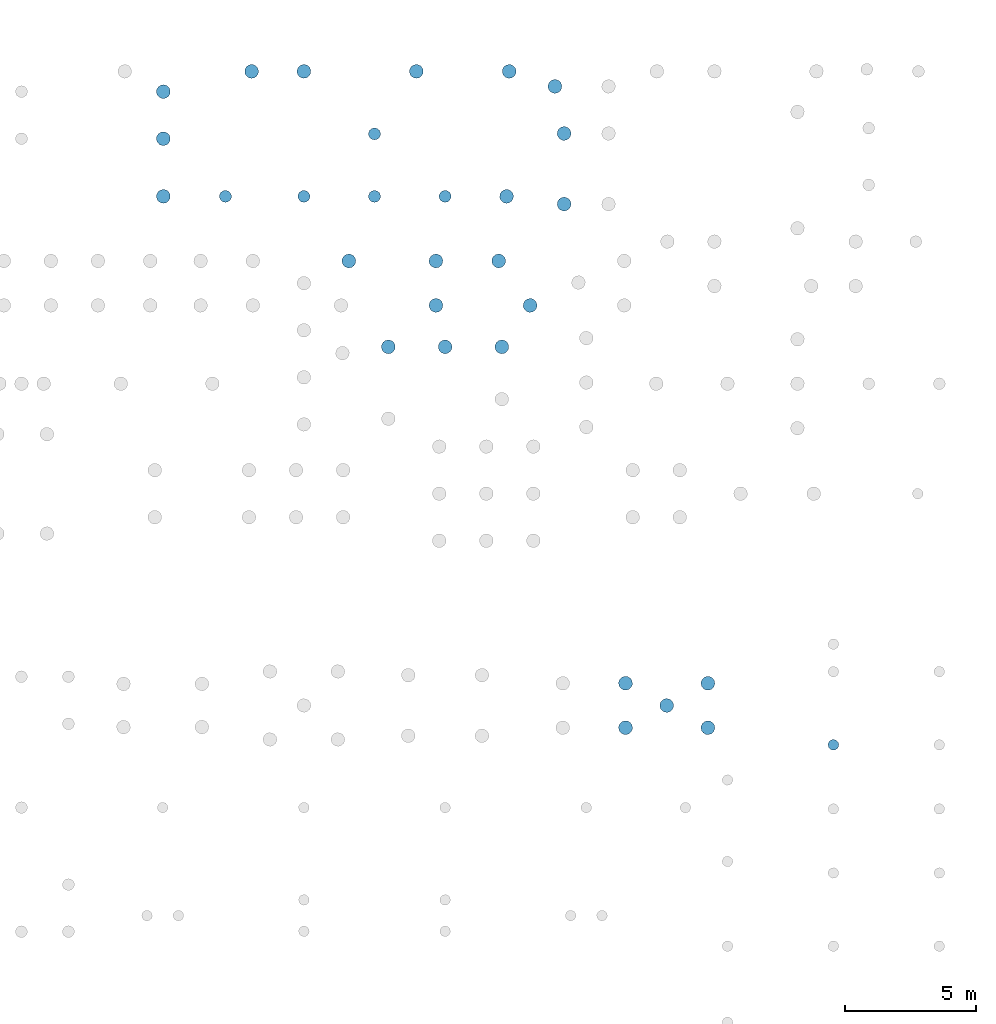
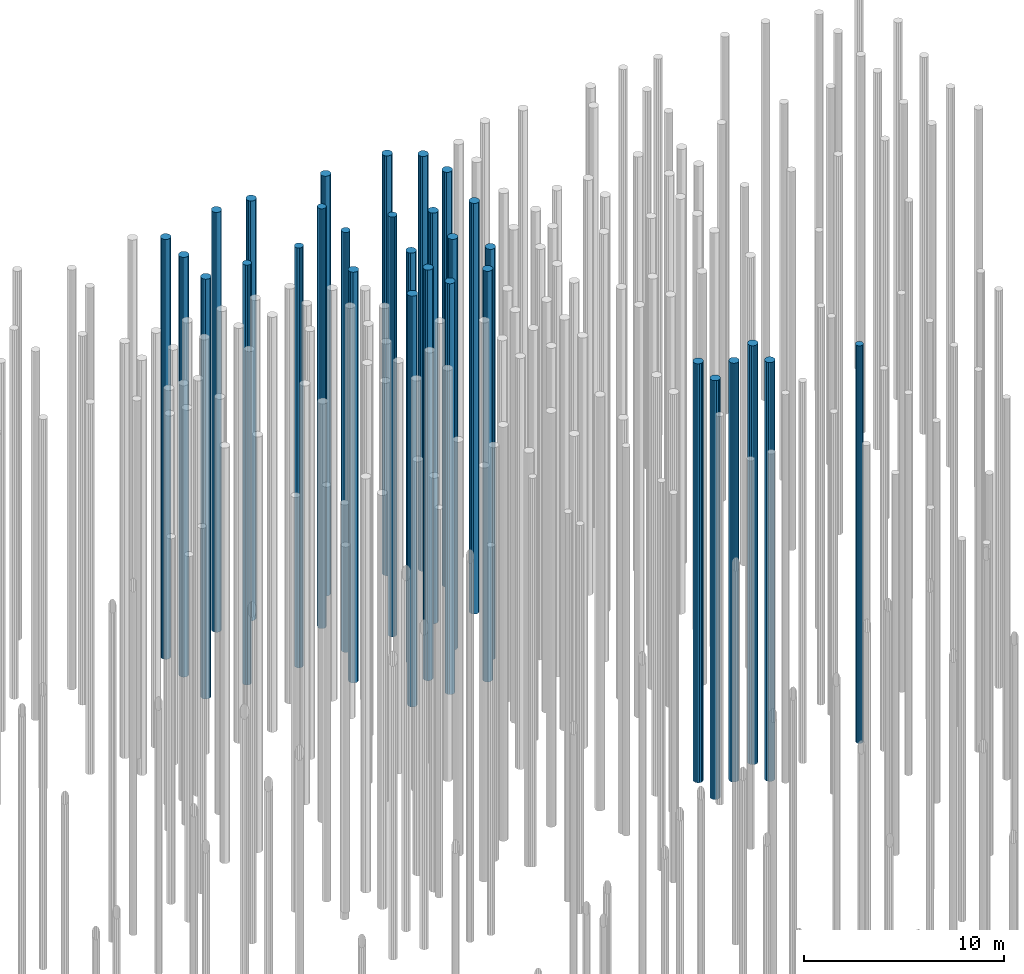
# One storey, part 17 of 20: 30 piles.
"""IFC2X3 building model written with IfcOpenShell, lengths in millimetres."""

from ifc_helpers import new_model, entity, si_unit, converted_unit, derived_unit, direction, frame, origin, place, context, subcontext, project, spatial, polyline, outline, extrude, material, element, save


model = new_model("IFC2X3")

# Units and contexts
model_context = context("Model", 3, precision=0.01, world=origin(), true_north=direction((6.12303176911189e-17, 1.0)))
body_context = subcontext(model_context, "Body", "Model", "MODEL_VIEW")
ifc_project = project(units=[si_unit("LENGTHUNIT", "METRE", prefix="MILLI"), si_unit("AREAUNIT", "SQUARE_METRE"), si_unit("VOLUMEUNIT", "CUBIC_METRE"), converted_unit("PLANEANGLEUNIT", "DEGREE", entity("IfcRatioMeasure", 0.0174532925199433), si_unit("PLANEANGLEUNIT", "RADIAN"), dimensions=[0, 0, 0, 0, 0, 0, 0]), si_unit("MASSUNIT", "GRAM", prefix="KILO"), derived_unit("MASSDENSITYUNIT", [(si_unit("MASSUNIT", "GRAM", prefix="KILO"), 1), (si_unit("LENGTHUNIT", "METRE"), -3)]), si_unit("TIMEUNIT", "SECOND"), si_unit("FREQUENCYUNIT", "HERTZ"), si_unit("THERMODYNAMICTEMPERATUREUNIT", "DEGREE_CELSIUS"), derived_unit("THERMALTRANSMITTANCEUNIT", [(si_unit("MASSUNIT", "GRAM", prefix="KILO"), 1), (si_unit("THERMODYNAMICTEMPERATUREUNIT", "KELVIN"), -1), (si_unit("TIMEUNIT", "SECOND"), -3)]), derived_unit("VOLUMETRICFLOWRATEUNIT", [(si_unit("LENGTHUNIT", "METRE"), 3), (si_unit("TIMEUNIT", "SECOND"), -1)]), si_unit("ELECTRICCURRENTUNIT", "AMPERE"), si_unit("ELECTRICVOLTAGEUNIT", "VOLT"), si_unit("POWERUNIT", "WATT"), si_unit("FORCEUNIT", "NEWTON", prefix="KILO"), si_unit("ILLUMINANCEUNIT", "LUX"), si_unit("LUMINOUSFLUXUNIT", "LUMEN"), si_unit("LUMINOUSINTENSITYUNIT", "CANDELA"), derived_unit("USERDEFINED", [(si_unit("MASSUNIT", "GRAM", prefix="KILO"), -1), (si_unit("LENGTHUNIT", "METRE"), -2), (si_unit("TIMEUNIT", "SECOND"), 3), (si_unit("LUMINOUSFLUXUNIT", "LUMEN"), 1)]), derived_unit("LINEARVELOCITYUNIT", [(si_unit("LENGTHUNIT", "METRE"), 1), (si_unit("TIMEUNIT", "SECOND"), -1)]), si_unit("PRESSUREUNIT", "PASCAL"), derived_unit("USERDEFINED", [(si_unit("LENGTHUNIT", "METRE"), -2), (si_unit("MASSUNIT", "GRAM", prefix="KILO"), 1), (si_unit("TIMEUNIT", "SECOND"), -2)])], contexts=[model_context])

# Site, building, storey
site_placement = place(None, origin())
site = spatial("IfcSite", under=ifc_project, at=site_placement, Name="Default", CompositionType="ELEMENT")
building_placement = place(site_placement, origin())
building = spatial("IfcBuilding", under=site, at=building_placement, Name="niet gebruiken", CompositionType="ELEMENT")
storey_placement = place(building_placement, frame((0.0, 0.0, -4000.0)))
storey = spatial("IfcBuildingStorey", under=building, at=storey_placement, Name="Level t.b.v. palenplan", CompositionType="ELEMENT", Elevation=-4000.0)

# Piles
ifc_material = material(Name="NLRS_f2_beton ihwg")
pile_1_placement = place(storey_placement, origin())
element("IfcPile", 1, at=pile_1_placement, inside=storey, material=ifc_material, Name="NLRS_17.12_SFO_TLB_funderingspaal grondverdringend_gen:Fundex_r530/650", ObjectType="NLRS_17.12_SFO_TLB_funderingspaal grondverdringend_gen:Fundex_r530/650", context=body_context, shape_type="SweptSolid", body=[
    extrude(outline(polyline([(-55.0965980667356, -259.209114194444), (55.0965980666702, -259.209114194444), (155.763091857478, -214.389503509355), (229.496732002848, -132.500000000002), (263.548302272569, -27.7000427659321), (252.029976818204, 81.8895035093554), (196.933378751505, 177.319610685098), (107.785210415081, 242.089546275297), (55.0965980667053, 259.209114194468), (-55.0965980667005, 259.209114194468), (-155.763091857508, 214.389503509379), (-229.496732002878, 132.500000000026), (-263.548302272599, 27.7000427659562), (-252.029976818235, -81.8895035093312), (-196.933378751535, -177.319610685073), (-107.785210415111, -242.089546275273), (-55.0965980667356, -259.209114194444)])), frame((93970.0, 42596.0, -23100.0), z_axis=(0.0, 0.0, 1.0), x_axis=(-0.978147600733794, -0.207911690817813, 0.0)), (0.0, 0.0, 1.0), 25070.0),
])
pile_2_placement = place(storey_placement, origin())
element("IfcPile", 2, at=pile_2_placement, inside=storey, material=ifc_material, Name="NLRS_17.12_SFO_TLB_funderingspaal grondverdringend_gen:Fundex_r530/650", ObjectType="NLRS_17.12_SFO_TLB_funderingspaal grondverdringend_gen:Fundex_r530/650", context=body_context, shape_type="SweptSolid", body=[
    extrude(outline(polyline([(-55.0965980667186, -259.209114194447), (55.0965980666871, -259.209114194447), (155.763091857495, -214.389503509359), (229.496732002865, -132.500000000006), (263.548302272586, -27.7000427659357), (252.029976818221, 81.8895035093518), (196.933378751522, 177.319610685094), (107.785210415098, 242.089546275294), (55.0965980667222, 259.209114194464), (-55.0965980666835, 259.209114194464), (-155.763091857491, 214.389503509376), (-229.496732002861, 132.500000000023), (-263.548302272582, 27.7000427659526), (-252.029976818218, -81.8895035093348), (-196.933378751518, -177.319610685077), (-107.785210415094, -242.089546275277), (-55.0965980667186, -259.209114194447)])), frame((91800.0, 42596.0, -23100.0), z_axis=(0.0, 0.0, 1.0), x_axis=(-0.978147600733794, -0.207911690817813, 0.0)), (0.0, 0.0, 1.0), 25070.0),
])
pile_3_placement = place(storey_placement, origin())
element("IfcPile", 3, at=pile_3_placement, inside=storey, material=ifc_material, Name="NLRS_17.12_SFO_TLB_funderingspaal grondverdringend_gen:Fundex_r530/650", ObjectType="NLRS_17.12_SFO_TLB_funderingspaal grondverdringend_gen:Fundex_r530/650", context=body_context, shape_type="SweptSolid", body=[
    extrude(outline(polyline([(-55.0965980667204, -259.209114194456), (55.0965980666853, -259.209114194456), (155.763091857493, -214.389503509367), (229.496732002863, -132.500000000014), (263.548302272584, -27.7000427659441), (252.029976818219, 81.8895035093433), (196.93337875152, 177.319610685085), (107.785210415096, 242.089546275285), (55.0965980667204, 259.209114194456), (-55.0965980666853, 259.209114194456), (-155.763091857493, 214.389503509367), (-229.496732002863, 132.500000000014), (-263.548302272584, 27.7000427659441), (-252.029976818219, -81.8895035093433), (-196.93337875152, -177.319610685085), (-107.785210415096, -242.089546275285), (-55.0965980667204, -259.209114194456)])), frame((89630.0, 42596.0, -23100.0), z_axis=(0.0, 0.0, 1.0), x_axis=(-0.978147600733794, -0.207911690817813, 0.0)), (0.0, 0.0, 1.0), 25070.0),
])
pile_4_placement = place(storey_placement, origin())
element("IfcPile", 4, at=pile_4_placement, inside=storey, material=ifc_material, Name="NLRS_17.12_SFO_TLB_funderingspaal grondverdringend_gen:Fundex_r530/650", ObjectType="NLRS_17.12_SFO_TLB_funderingspaal grondverdringend_gen:Fundex_r530/650", context=body_context, shape_type="SweptSolid", body=[
    extrude(outline(polyline([(-55.0965980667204, -259.209114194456), (55.0965980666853, -259.209114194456), (155.763091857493, -214.389503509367), (229.496732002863, -132.500000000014), (263.548302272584, -27.7000427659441), (252.029976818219, 81.8895035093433), (196.93337875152, 177.319610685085), (107.785210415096, 242.089546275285), (55.0965980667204, 259.209114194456), (-55.0965980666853, 259.209114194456), (-155.763091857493, 214.389503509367), (-229.496732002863, 132.500000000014), (-263.548302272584, 27.7000427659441), (-252.029976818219, -81.8895035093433), (-196.93337875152, -177.319610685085), (-107.785210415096, -242.089546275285), (-55.0965980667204, -259.209114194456)])), frame((88120.0, 45881.0, -23100.0), z_axis=(0.0, 0.0, 1.0), x_axis=(-0.978147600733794, -0.207911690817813, 0.0)), (0.0, 0.0, 1.0), 25070.0),
])
pile_5_placement = place(storey_placement, origin())
element("IfcPile", 5, at=pile_5_placement, inside=storey, material=ifc_material, Name="NLRS_17.12_SFO_TLB_funderingspaal grondverdringend_gen:Fundex_r530/650", ObjectType="NLRS_17.12_SFO_TLB_funderingspaal grondverdringend_gen:Fundex_r530/650", context=body_context, shape_type="SweptSolid", body=[
    extrude(outline(polyline([(-55.0965980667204, -259.209114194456), (55.0965980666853, -259.209114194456), (155.763091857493, -214.389503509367), (229.496732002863, -132.500000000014), (263.548302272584, -27.7000427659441), (252.029976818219, 81.8895035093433), (196.93337875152, 177.319610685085), (107.785210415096, 242.089546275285), (55.0965980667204, 259.209114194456), (-55.0965980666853, 259.209114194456), (-155.763091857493, 214.389503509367), (-229.496732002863, 132.500000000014), (-263.548302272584, 27.7000427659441), (-252.029976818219, -81.8895035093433), (-196.93337875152, -177.319610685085), (-107.785210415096, -242.089546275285), (-55.0965980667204, -259.209114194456)])), frame((93850.0, 45881.0, -23100.0), z_axis=(0.0, 0.0, 1.0), x_axis=(-0.978147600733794, -0.207911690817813, 0.0)), (0.0, 0.0, 1.0), 25070.0),
])
pile_6_placement = place(storey_placement, origin())
element("IfcPile", 6, at=pile_6_placement, inside=storey, material=ifc_material, Name="NLRS_17.12_SFO_TLB_funderingspaal grondverdringend_gen:Fundex_r530/650", ObjectType="NLRS_17.12_SFO_TLB_funderingspaal grondverdringend_gen:Fundex_r530/650", context=body_context, shape_type="SweptSolid", body=[
    extrude(outline(polyline([(-55.0965980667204, -259.209114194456), (55.0965980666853, -259.209114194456), (155.763091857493, -214.389503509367), (229.496732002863, -132.500000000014), (263.548302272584, -27.7000427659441), (252.029976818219, 81.8895035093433), (196.93337875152, 177.319610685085), (107.785210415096, 242.089546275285), (55.0965980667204, 259.209114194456), (-55.0965980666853, 259.209114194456), (-155.763091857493, 214.389503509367), (-229.496732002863, 132.500000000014), (-263.548302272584, 27.7000427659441), (-252.029976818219, -81.8895035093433), (-196.93337875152, -177.319610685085), (-107.785210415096, -242.089546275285), (-55.0965980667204, -259.209114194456)])), frame((95050.0, 44181.0, -23100.0), z_axis=(0.0, 0.0, 1.0), x_axis=(-0.978147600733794, -0.207911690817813, 0.0)), (0.0, 0.0, 1.0), 25070.0),
])
pile_7_placement = place(storey_placement, origin())
element("IfcPile", 7, at=pile_7_placement, inside=storey, material=ifc_material, Name="NLRS_17.12_SFO_TLB_funderingspaal grondverdringend_gen:Fundex_r530/650", ObjectType="NLRS_17.12_SFO_TLB_funderingspaal grondverdringend_gen:Fundex_r530/650", context=body_context, shape_type="SweptSolid", body=[
    extrude(outline(polyline([(-55.0965980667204, -259.209114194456), (55.0965980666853, -259.209114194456), (155.763091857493, -214.389503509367), (229.496732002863, -132.500000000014), (263.548302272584, -27.7000427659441), (252.029976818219, 81.8895035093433), (196.93337875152, 177.319610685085), (107.785210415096, 242.089546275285), (55.0965980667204, 259.209114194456), (-55.0965980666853, 259.209114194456), (-155.763091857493, 214.389503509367), (-229.496732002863, 132.500000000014), (-263.548302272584, 27.7000427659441), (-252.029976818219, -81.8895035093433), (-196.93337875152, -177.319610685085), (-107.785210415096, -242.089546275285), (-55.0965980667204, -259.209114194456)])), frame((96350.0, 48056.0, -23100.0), z_axis=(0.0, 0.0, 1.0), x_axis=(-0.978147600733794, -0.207911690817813, 0.0)), (0.0, 0.0, 1.0), 25070.0),
])
pile_8_placement = place(storey_placement, origin())
element("IfcPile", 8, at=pile_8_placement, inside=storey, material=ifc_material, Name="NLRS_17.12_SFO_TLB_funderingspaal grondverdringend_gen:Fundex_r530/650", ObjectType="NLRS_17.12_SFO_TLB_funderingspaal grondverdringend_gen:Fundex_r530/650", context=body_context, shape_type="SweptSolid", body=[
    extrude(outline(polyline([(-55.0965980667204, -259.209114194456), (55.0965980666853, -259.209114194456), (155.763091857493, -214.389503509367), (229.496732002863, -132.500000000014), (263.548302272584, -27.7000427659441), (252.029976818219, 81.8895035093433), (196.93337875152, 177.319610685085), (107.785210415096, 242.089546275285), (55.0965980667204, 259.209114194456), (-55.0965980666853, 259.209114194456), (-155.763091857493, 214.389503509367), (-229.496732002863, 132.500000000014), (-263.548302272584, 27.7000427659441), (-252.029976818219, -81.8895035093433), (-196.93337875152, -177.319610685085), (-107.785210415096, -242.089546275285), (-55.0965980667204, -259.209114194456)])), frame((94150.0, 48351.0, -23100.0), z_axis=(0.0, 0.0, 1.0), x_axis=(-0.978147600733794, -0.207911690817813, 0.0)), (0.0, 0.0, 1.0), 25070.0),
])
pile_9_placement = place(storey_placement, origin())
element("IfcPile", 9, at=pile_9_placement, inside=storey, material=ifc_material, Name="NLRS_17.12_SFO_TLB_funderingspaal grondverdringend_gen:Fundex_r460/560", ObjectType="NLRS_17.12_SFO_TLB_funderingspaal grondverdringend_gen:Fundex_r460/560", context=body_context, shape_type="SweptSolid", body=[
    extrude(outline(polyline([(-25.7518295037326, -228.553808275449), (25.7518295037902, -228.553808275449), (122.367377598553, -194.746565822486), (194.746565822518, -122.367377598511), (228.553808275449, -25.7518295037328), (217.093165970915, 75.9641842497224), (162.634559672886, 162.634559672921), (75.9641842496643, 217.093165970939), (25.7518295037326, 228.553808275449), (-25.7518295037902, 228.553808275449), (-122.367377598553, 194.746565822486), (-194.746565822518, 122.367377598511), (-228.553808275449, 25.7518295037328), (-217.093165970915, -75.9641842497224), (-162.634559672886, -162.634559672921), (-75.9641842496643, -217.093165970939), (-25.7518295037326, -228.553808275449)])), frame((91800.0, 48351.0, -23100.0), z_axis=(0.0, 0.0, 1.0), x_axis=(0.111964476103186, -0.993712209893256, 0.0)), (0.0, 0.0, 1.0), 25628.0),
])
pile_10_placement = place(storey_placement, origin())
element("IfcPile", 10, at=pile_10_placement, inside=storey, material=ifc_material, Name="NLRS_17.12_SFO_TLB_funderingspaal grondverdringend_gen:Fundex_r460/560", ObjectType="NLRS_17.12_SFO_TLB_funderingspaal grondverdringend_gen:Fundex_r460/560", context=body_context, shape_type="SweptSolid", body=[
    extrude(outline(polyline([(-25.7518295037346, -228.553808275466), (25.7518295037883, -228.553808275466), (122.367377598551, -194.746565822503), (194.746565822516, -122.367377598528), (228.553808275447, -25.75182950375), (217.093165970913, 75.9641842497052), (162.634559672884, 162.634559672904), (75.9641842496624, 217.093165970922), (25.7518295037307, 228.553808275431), (-25.7518295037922, 228.553808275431), (-122.367377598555, 194.746565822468), (-194.74656582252, 122.367377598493), (-228.553808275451, 25.7518295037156), (-217.093165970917, -75.9641842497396), (-162.634559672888, -162.634559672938), (-75.9641842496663, -217.093165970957), (-25.7518295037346, -228.553808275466)])), frame((89100.0, 48351.0, -23100.0), z_axis=(0.0, 0.0, 1.0), x_axis=(0.111964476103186, -0.993712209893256, 0.0)), (0.0, 0.0, 1.0), 25628.0),
])
pile_11_placement = place(storey_placement, origin())
element("IfcPile", 11, at=pile_11_placement, inside=storey, material=ifc_material, Name="NLRS_17.12_SFO_TLB_funderingspaal grondverdringend_gen:Fundex_r460/560", ObjectType="NLRS_17.12_SFO_TLB_funderingspaal grondverdringend_gen:Fundex_r460/560", context=body_context, shape_type="SweptSolid", body=[
    extrude(outline(polyline([(-25.7518295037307, -228.553808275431), (25.7518295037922, -228.553808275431), (122.367377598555, -194.746565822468), (194.74656582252, -122.367377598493), (228.553808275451, -25.7518295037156), (217.093165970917, 75.9641842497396), (162.634559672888, 162.634559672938), (75.9641842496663, 217.093165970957), (25.7518295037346, 228.553808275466), (-25.7518295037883, 228.553808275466), (-122.367377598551, 194.746565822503), (-194.746565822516, 122.367377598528), (-228.553808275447, 25.75182950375), (-217.093165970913, -75.9641842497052), (-162.634559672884, -162.634559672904), (-75.9641842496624, -217.093165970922), (-25.7518295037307, -228.553808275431)])), frame((86400.0, 48351.0, -23100.0), z_axis=(0.0, 0.0, 1.0), x_axis=(0.111964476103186, -0.993712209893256, 0.0)), (0.0, 0.0, 1.0), 25628.0),
])
pile_12_placement = place(storey_placement, origin())
element("IfcPile", 12, at=pile_12_placement, inside=storey, material=ifc_material, Name="NLRS_17.12_SFO_TLB_funderingspaal grondverdringend_gen:Fundex_r460/560", ObjectType="NLRS_17.12_SFO_TLB_funderingspaal grondverdringend_gen:Fundex_r460/560", context=body_context, shape_type="SweptSolid", body=[
    extrude(outline(polyline([(-25.7518295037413, -228.553808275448), (25.7518295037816, -228.553808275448), (122.367377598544, -194.746565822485), (194.74656582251, -122.36737759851), (228.55380827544, -25.7518295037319), (217.093165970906, 75.9641842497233), (162.634559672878, 162.634559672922), (75.9641842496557, 217.09316597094), (25.751829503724, 228.55380827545), (-25.7518295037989, 228.55380827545), (-122.367377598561, 194.746565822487), (-194.746565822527, 122.367377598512), (-228.553808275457, 25.7518295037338), (-217.093165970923, -75.9641842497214), (-162.634559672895, -162.63455967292), (-75.964184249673, -217.093165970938), (-25.7518295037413, -228.553808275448)])), frame((83400.0, 48351.0, -23100.0), z_axis=(0.0, 0.0, 1.0), x_axis=(0.111964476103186, -0.993712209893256, 0.0)), (0.0, 0.0, 1.0), 25628.0),
])
pile_13_placement = place(storey_placement, origin())
element("IfcPile", 13, at=pile_13_placement, inside=storey, material=ifc_material, Name="NLRS_17.12_SFO_TLB_funderingspaal grondverdringend_gen:Fundex_r530/650", ObjectType="NLRS_17.12_SFO_TLB_funderingspaal grondverdringend_gen:Fundex_r530/650", context=body_context, shape_type="SweptSolid", body=[
    extrude(outline(polyline([(-55.0965980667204, -259.209114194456), (55.0965980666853, -259.209114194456), (155.763091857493, -214.389503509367), (229.496732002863, -132.500000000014), (263.548302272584, -27.7000427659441), (252.029976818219, 81.8895035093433), (196.93337875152, 177.319610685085), (107.785210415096, 242.089546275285), (55.0965980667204, 259.209114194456), (-55.0965980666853, 259.209114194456), (-155.763091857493, 214.389503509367), (-229.496732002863, 132.500000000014), (-263.548302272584, 27.7000427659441), (-252.029976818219, -81.8895035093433), (-196.93337875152, -177.319610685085), (-107.785210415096, -242.089546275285), (-55.0965980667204, -259.209114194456)])), frame((81025.0, 48351.0, -23100.0), z_axis=(0.0, 0.0, 1.0), x_axis=(-0.978147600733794, -0.207911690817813, 0.0)), (0.0, 0.0, 1.0), 25628.0),
])
pile_14_placement = place(storey_placement, origin())
element("IfcPile", 14, at=pile_14_placement, inside=storey, material=ifc_material, Name="NLRS_17.12_SFO_TLB_funderingspaal grondverdringend_gen:Fundex_r530/650", ObjectType="NLRS_17.12_SFO_TLB_funderingspaal grondverdringend_gen:Fundex_r530/650", context=body_context, shape_type="SweptSolid", body=[
    extrude(outline(polyline([(-55.0965980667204, -259.209114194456), (55.0965980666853, -259.209114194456), (155.763091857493, -214.389503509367), (229.496732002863, -132.500000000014), (263.548302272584, -27.7000427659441), (252.029976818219, 81.8895035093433), (196.93337875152, 177.319610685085), (107.785210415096, 242.089546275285), (55.0965980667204, 259.209114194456), (-55.0965980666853, 259.209114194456), (-155.763091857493, 214.389503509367), (-229.496732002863, 132.500000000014), (-263.548302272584, 27.7000427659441), (-252.029976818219, -81.8895035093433), (-196.93337875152, -177.319610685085), (-107.785210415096, -242.089546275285), (-55.0965980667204, -259.209114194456)])), frame((81025.0, 50556.0, -23100.0), z_axis=(0.0, 0.0, 1.0), x_axis=(-0.978147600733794, -0.207911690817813, 0.0)), (0.0, 0.0, 1.0), 25628.0),
])
pile_15_placement = place(storey_placement, origin())
element("IfcPile", 15, at=pile_15_placement, inside=storey, material=ifc_material, Name="NLRS_17.12_SFO_TLB_funderingspaal grondverdringend_gen:Fundex_r530/650", ObjectType="NLRS_17.12_SFO_TLB_funderingspaal grondverdringend_gen:Fundex_r530/650", context=body_context, shape_type="SweptSolid", body=[
    extrude(outline(polyline([(-55.0965980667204, -259.209114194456), (55.0965980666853, -259.209114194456), (155.763091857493, -214.389503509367), (229.496732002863, -132.500000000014), (263.548302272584, -27.7000427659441), (252.029976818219, 81.8895035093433), (196.93337875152, 177.319610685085), (107.785210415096, 242.089546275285), (55.0965980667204, 259.209114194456), (-55.0965980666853, 259.209114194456), (-155.763091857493, 214.389503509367), (-229.496732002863, 132.500000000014), (-263.548302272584, 27.7000427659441), (-252.029976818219, -81.8895035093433), (-196.93337875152, -177.319610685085), (-107.785210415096, -242.089546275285), (-55.0965980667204, -259.209114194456)])), frame((81025.0, 52356.0, -23100.0), z_axis=(0.0, 0.0, 1.0), x_axis=(-0.978147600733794, -0.207911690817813, 0.0)), (0.0, 0.0, 1.0), 25628.0),
])
pile_16_placement = place(storey_placement, origin())
element("IfcPile", 16, at=pile_16_placement, inside=storey, material=ifc_material, Name="NLRS_17.12_SFO_TLB_funderingspaal grondverdringend_gen:Fundex_r530/650", ObjectType="NLRS_17.12_SFO_TLB_funderingspaal grondverdringend_gen:Fundex_r530/650", context=body_context, shape_type="SweptSolid", body=[
    extrude(outline(polyline([(-55.0965980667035, -259.20911419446), (55.0965980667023, -259.20911419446), (155.76309185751, -214.389503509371), (229.49673200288, -132.500000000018), (263.548302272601, -27.7000427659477), (252.029976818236, 81.8895035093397), (196.933378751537, 177.319610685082), (107.785210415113, 242.089546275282), (55.0965980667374, 259.209114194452), (-55.0965980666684, 259.209114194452), (-155.763091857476, 214.389503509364), (-229.496732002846, 132.500000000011), (-263.548302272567, 27.7000427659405), (-252.029976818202, -81.8895035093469), (-196.933378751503, -177.319610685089), (-107.785210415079, -242.089546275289), (-55.0965980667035, -259.20911419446)])), frame((86400.0, 53131.0, -23100.0), z_axis=(0.0, 0.0, 1.0), x_axis=(-0.978147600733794, -0.207911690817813, 0.0)), (0.0, 0.0, 1.0), 25628.0),
])
pile_17_placement = place(storey_placement, origin())
element("IfcPile", 17, at=pile_17_placement, inside=storey, material=ifc_material, Name="NLRS_17.12_SFO_TLB_funderingspaal grondverdringend_gen:Fundex_r530/650", ObjectType="NLRS_17.12_SFO_TLB_funderingspaal grondverdringend_gen:Fundex_r530/650", context=body_context, shape_type="SweptSolid", body=[
    extrude(outline(polyline([(-55.0965980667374, -259.209114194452), (55.0965980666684, -259.209114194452), (155.763091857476, -214.389503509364), (229.496732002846, -132.500000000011), (263.548302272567, -27.7000427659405), (252.029976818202, 81.8895035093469), (196.933378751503, 177.319610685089), (107.785210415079, 242.089546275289), (55.0965980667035, 259.20911419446), (-55.0965980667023, 259.20911419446), (-155.76309185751, 214.389503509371), (-229.49673200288, 132.500000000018), (-263.548302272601, 27.7000427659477), (-252.029976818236, -81.8895035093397), (-196.933378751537, -177.319610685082), (-107.785210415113, -242.089546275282), (-55.0965980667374, -259.209114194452)])), frame((90700.0, 53131.0, -23100.0), z_axis=(0.0, 0.0, 1.0), x_axis=(-0.978147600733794, -0.207911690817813, 0.0)), (0.0, 0.0, 1.0), 25628.0),
])
pile_18_placement = place(storey_placement, origin())
element("IfcPile", 18, at=pile_18_placement, inside=storey, material=ifc_material, Name="NLRS_17.12_SFO_TLB_funderingspaal grondverdringend_gen:Fundex_r460/560", ObjectType="NLRS_17.12_SFO_TLB_funderingspaal grondverdringend_gen:Fundex_r460/560", context=body_context, shape_type="SweptSolid", body=[
    extrude(outline(polyline([(-25.7518295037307, -228.553808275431), (25.7518295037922, -228.553808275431), (122.367377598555, -194.746565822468), (194.74656582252, -122.367377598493), (228.553808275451, -25.7518295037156), (217.093165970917, 75.9641842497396), (162.634559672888, 162.634559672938), (75.9641842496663, 217.093165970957), (25.7518295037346, 228.553808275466), (-25.7518295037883, 228.553808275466), (-122.367377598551, 194.746565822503), (-194.746565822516, 122.367377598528), (-228.553808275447, 25.75182950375), (-217.093165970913, -75.9641842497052), (-162.634559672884, -162.634559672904), (-75.9641842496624, -217.093165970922), (-25.7518295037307, -228.553808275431)])), frame((89100.0, 50741.0, -23100.0), z_axis=(0.0, 0.0, 1.0), x_axis=(0.111964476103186, -0.993712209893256, 0.0)), (0.0, 0.0, 1.0), 25628.0),
])
pile_19_placement = place(storey_placement, origin())
element("IfcPile", 19, at=pile_19_placement, inside=storey, material=ifc_material, Name="NLRS_17.12_SFO_TLB_funderingspaal grondverdringend_gen:Fundex_r530/650", ObjectType="NLRS_17.12_SFO_TLB_funderingspaal grondverdringend_gen:Fundex_r530/650", context=body_context, shape_type="SweptSolid", body=[
    extrude(outline(polyline([(-55.0965980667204, -259.209114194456), (55.0965980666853, -259.209114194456), (155.763091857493, -214.389503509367), (229.496732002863, -132.500000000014), (263.548302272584, -27.7000427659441), (252.029976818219, 81.8895035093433), (196.93337875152, 177.319610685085), (107.785210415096, 242.089546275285), (55.0965980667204, 259.209114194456), (-55.0965980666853, 259.209114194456), (-155.763091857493, 214.389503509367), (-229.496732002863, 132.500000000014), (-263.548302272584, 27.7000427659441), (-252.029976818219, -81.8895035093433), (-196.93337875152, -177.319610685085), (-107.785210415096, -242.089546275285), (-55.0965980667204, -259.209114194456)])), frame((94250.0, 53131.0, -23100.0), z_axis=(0.0, 0.0, 1.0), x_axis=(-0.978147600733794, -0.207911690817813, 0.0)), (0.0, 0.0, 1.0), 25628.0),
])
pile_20_placement = place(storey_placement, origin())
element("IfcPile", 20, at=pile_20_placement, inside=storey, material=ifc_material, Name="NLRS_17.12_SFO_TLB_funderingspaal grondverdringend_gen:Fundex_r530/650", ObjectType="NLRS_17.12_SFO_TLB_funderingspaal grondverdringend_gen:Fundex_r530/650", context=body_context, shape_type="SweptSolid", body=[
    extrude(outline(polyline([(-55.0965980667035, -259.20911419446), (55.0965980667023, -259.20911419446), (155.76309185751, -214.389503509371), (229.49673200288, -132.500000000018), (263.548302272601, -27.7000427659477), (252.029976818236, 81.8895035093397), (196.933378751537, 177.319610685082), (107.785210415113, 242.089546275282), (55.0965980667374, 259.209114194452), (-55.0965980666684, 259.209114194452), (-155.763091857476, 214.389503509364), (-229.496732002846, 132.500000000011), (-263.548302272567, 27.7000427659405), (-252.029976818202, -81.8895035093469), (-196.933378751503, -177.319610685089), (-107.785210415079, -242.089546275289), (-55.0965980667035, -259.20911419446)])), frame((96350.0, 50756.0, -23100.0), z_axis=(0.0, 0.0, 1.0), x_axis=(-0.978147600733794, -0.207911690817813, 0.0)), (0.0, 0.0, 1.0), 25328.0),
])
pile_21_placement = place(storey_placement, origin())
element("IfcPile", 21, at=pile_21_placement, inside=storey, material=ifc_material, Name="NLRS_17.12_SFO_TLB_funderingspaal grondverdringend_gen:Fundex_r530/650", ObjectType="NLRS_17.12_SFO_TLB_funderingspaal grondverdringend_gen:Fundex_r530/650", context=body_context, shape_type="SweptSolid", body=[
    extrude(outline(polyline([(-55.0965980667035, -259.20911419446), (55.0965980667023, -259.20911419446), (155.76309185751, -214.389503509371), (229.49673200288, -132.500000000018), (263.548302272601, -27.7000427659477), (252.029976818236, 81.8895035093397), (196.933378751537, 177.319610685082), (107.785210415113, 242.089546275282), (55.0965980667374, 259.209114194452), (-55.0965980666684, 259.209114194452), (-155.763091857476, 214.389503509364), (-229.496732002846, 132.500000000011), (-263.548302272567, 27.7000427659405), (-252.029976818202, -81.8895035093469), (-196.933378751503, -177.319610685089), (-107.785210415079, -242.089546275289), (-55.0965980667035, -259.20911419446)])), frame((96000.0, 52556.0, -23100.0), z_axis=(0.0, 0.0, 1.0), x_axis=(-0.978147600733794, -0.207911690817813, 0.0)), (0.0, 0.0, 1.0), 25328.0),
])
pile_22_placement = place(storey_placement, origin())
element("IfcPile", 22, at=pile_22_placement, inside=storey, material=ifc_material, Name="NLRS_17.12_SFO_TLB_funderingspaal grondverdringend_gen:Fundex_r530/650", ObjectType="NLRS_17.12_SFO_TLB_funderingspaal grondverdringend_gen:Fundex_r530/650", context=body_context, shape_type="SweptSolid", body=[
    extrude(outline(polyline([(-55.0965980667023, -259.209114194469), (55.0965980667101, -259.209114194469), (155.763091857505, -214.389503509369), (229.496732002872, -132.50000000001), (263.548302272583, -27.7000427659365), (252.029976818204, 81.8895035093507), (196.933378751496, 177.319610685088), (107.78521041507, 242.089546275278), (55.0965980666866, 259.209114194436), (-55.0965980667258, 259.209114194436), (-155.763091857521, 214.389503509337), (-229.496732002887, 132.499999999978), (-263.548302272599, 27.7000427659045), (-252.02997681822, -81.8895035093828), (-196.933378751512, -177.31961068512), (-107.785210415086, -242.08954627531), (-55.0965980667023, -259.209114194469)])), frame((101850.0, 29731.0, -23100.0), z_axis=(0.0, 0.0, 1.0), x_axis=(0.207911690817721, -0.978147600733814, 0.0)), (0.0, 0.0, 1.0), 25570.0),
])
pile_23_placement = place(storey_placement, origin())
element("IfcPile", 23, at=pile_23_placement, inside=storey, material=ifc_material, Name="NLRS_17.12_SFO_TLB_funderingspaal grondverdringend_gen:Fundex_r530/650", ObjectType="NLRS_17.12_SFO_TLB_funderingspaal grondverdringend_gen:Fundex_r530/650", context=body_context, shape_type="SweptSolid", body=[
    extrude(outline(polyline([(-55.0965980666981, -259.209114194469), (55.0965980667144, -259.20911419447), (155.763091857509, -214.38950350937), (229.496732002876, -132.500000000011), (263.548302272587, -27.7000427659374), (252.029976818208, 81.8895035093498), (196.9333787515, 177.319610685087), (107.785210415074, 242.089546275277), (55.0965980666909, 259.209114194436), (-55.0965980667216, 259.209114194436), (-155.763091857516, 214.389503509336), (-229.496732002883, 132.499999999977), (-263.548302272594, 27.7000427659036), (-252.029976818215, -81.8895035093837), (-196.933378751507, -177.319610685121), (-107.785210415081, -242.089546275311), (-55.0965980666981, -259.209114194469)])), frame((101850.0, 28031.0, -23100.0), z_axis=(0.0, 0.0, 1.0), x_axis=(0.207911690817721, -0.978147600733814, 0.0)), (0.0, 0.0, 1.0), 25570.0),
])
pile_24_placement = place(storey_placement, origin())
element("IfcPile", 24, at=pile_24_placement, inside=storey, material=ifc_material, Name="NLRS_17.12_SFO_TLB_funderingspaal grondverdringend_gen:Fundex_r530/650", ObjectType="NLRS_17.12_SFO_TLB_funderingspaal grondverdringend_gen:Fundex_r530/650", context=body_context, shape_type="SweptSolid", body=[
    extrude(outline(polyline([(-55.0965980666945, -259.209114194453), (55.096598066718, -259.209114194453), (155.763091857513, -214.389503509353), (229.496732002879, -132.499999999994), (263.548302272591, -27.7000427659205), (252.029976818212, 81.8895035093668), (196.933378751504, 177.319610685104), (107.785210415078, 242.089546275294), (55.0965980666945, 259.209114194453), (-55.096598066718, 259.209114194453), (-155.763091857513, 214.389503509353), (-229.496732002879, 132.499999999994), (-263.548302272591, 27.7000427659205), (-252.029976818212, -81.8895035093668), (-196.933378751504, -177.319610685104), (-107.785210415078, -242.089546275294), (-55.0965980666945, -259.209114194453)])), frame((98700.0, 28031.0, -23100.0), z_axis=(0.0, 0.0, 1.0), x_axis=(0.207911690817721, -0.978147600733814, 0.0)), (0.0, 0.0, 1.0), 25570.0),
])
pile_25_placement = place(storey_placement, origin())
element("IfcPile", 25, at=pile_25_placement, inside=storey, material=ifc_material, Name="NLRS_17.12_SFO_TLB_funderingspaal grondverdringend_gen:Fundex_r530/650", ObjectType="NLRS_17.12_SFO_TLB_funderingspaal grondverdringend_gen:Fundex_r530/650", context=body_context, shape_type="SweptSolid", body=[
    extrude(outline(polyline([(-55.0965980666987, -259.209114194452), (55.0965980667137, -259.209114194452), (155.763091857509, -214.389503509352), (229.496732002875, -132.499999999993), (263.548302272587, -27.7000427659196), (252.029976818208, 81.8895035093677), (196.9333787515, 177.319610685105), (107.785210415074, 242.089546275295), (55.0965980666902, 259.209114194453), (-55.0965980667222, 259.209114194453), (-155.763091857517, 214.389503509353), (-229.496732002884, 132.499999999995), (-263.548302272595, 27.7000427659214), (-252.029976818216, -81.8895035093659), (-196.933378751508, -177.319610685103), (-107.785210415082, -242.089546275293), (-55.0965980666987, -259.209114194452)])), frame((98700.0, 29731.0, -23100.0), z_axis=(0.0, 0.0, 1.0), x_axis=(0.207911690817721, -0.978147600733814, 0.0)), (0.0, 0.0, 1.0), 25570.0),
])
pile_26_placement = place(storey_placement, origin())
element("IfcPile", 26, at=pile_26_placement, inside=storey, material=ifc_material, Name="NLRS_17.12_SFO_TLB_funderingspaal grondverdringend_gen:Fundex_r410/500", ObjectType="NLRS_17.12_SFO_TLB_funderingspaal grondverdringend_gen:Fundex_r410/500", context=body_context, shape_type="SweptSolid", body=[
    extrude(outline(polyline([(-49.0597111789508, -199.043072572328), (49.0597111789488, -199.043072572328), (135.940144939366, -153.444703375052), (191.678329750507, -72.6940018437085), (203.5053191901, 24.7100194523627), (168.711692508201, 116.45327307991), (95.2682502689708, 181.518485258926), (49.0597111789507, 199.043072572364), (-49.0597111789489, 199.043072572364), (-135.940144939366, 153.444703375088), (-191.678329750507, 72.6940018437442), (-203.5053191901, -24.7100194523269), (-168.711692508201, -116.453273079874), (-95.2682502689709, -181.51848525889), (-49.0597111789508, -199.043072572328)])), frame((106650.0, 27376.0, -22100.0), z_axis=(0.0, 0.0, 1.0), x_axis=(0.239315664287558, -0.970941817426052, 0.0)), (0.0, 0.0, 1.0), 24270.0),
])
pile_27_placement = place(storey_placement, origin())
element("IfcPile", 27, at=pile_27_placement, inside=storey, material=ifc_material, Name="NLRS_17.12_SFO_TLB_funderingspaal grondverdringend_gen:Fundex_r530/650", ObjectType="NLRS_17.12_SFO_TLB_funderingspaal grondverdringend_gen:Fundex_r530/650", context=body_context, shape_type="SweptSolid", body=[
    extrude(outline(polyline([(-55.0965980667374, -259.209114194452), (55.0965980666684, -259.209114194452), (155.763091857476, -214.389503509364), (229.496732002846, -132.500000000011), (263.548302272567, -27.7000427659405), (252.029976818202, 81.8895035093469), (196.933378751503, 177.319610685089), (107.785210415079, 242.089546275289), (55.0965980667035, 259.20911419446), (-55.0965980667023, 259.20911419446), (-155.76309185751, 214.389503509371), (-229.49673200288, 132.500000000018), (-263.548302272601, 27.7000427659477), (-252.029976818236, -81.8895035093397), (-196.933378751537, -177.319610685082), (-107.785210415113, -242.089546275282), (-55.0965980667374, -259.209114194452)])), frame((91450.0, 45881.0, -23100.0), z_axis=(0.0, 0.0, 1.0), x_axis=(-0.978147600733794, -0.207911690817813, 0.0)), (0.0, 0.0, 1.0), 25070.0),
])
pile_28_placement = place(storey_placement, origin())
element("IfcPile", 28, at=pile_28_placement, inside=storey, material=ifc_material, Name="NLRS_17.12_SFO_TLB_funderingspaal grondverdringend_gen:Fundex_r530/650", ObjectType="NLRS_17.12_SFO_TLB_funderingspaal grondverdringend_gen:Fundex_r530/650", context=body_context, shape_type="SweptSolid", body=[
    extrude(outline(polyline([(-55.0965980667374, -259.209114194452), (55.0965980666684, -259.209114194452), (155.763091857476, -214.389503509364), (229.496732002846, -132.500000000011), (263.548302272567, -27.7000427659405), (252.029976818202, 81.8895035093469), (196.933378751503, 177.319610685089), (107.785210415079, 242.089546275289), (55.0965980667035, 259.20911419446), (-55.0965980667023, 259.20911419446), (-155.76309185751, 214.389503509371), (-229.49673200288, 132.500000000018), (-263.548302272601, 27.7000427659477), (-252.029976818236, -81.8895035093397), (-196.933378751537, -177.319610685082), (-107.785210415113, -242.089546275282), (-55.0965980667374, -259.209114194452)])), frame((91450.0, 44181.0, -23100.0), z_axis=(0.0, 0.0, 1.0), x_axis=(-0.978147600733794, -0.207911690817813, 0.0)), (0.0, 0.0, 1.0), 25070.0),
])
pile_29_placement = place(storey_placement, origin())
element("IfcPile", 29, at=pile_29_placement, inside=storey, material=ifc_material, Name="NLRS_17.12_SFO_TLB_funderingspaal grondverdringend_gen:Fundex_r530/650", ObjectType="NLRS_17.12_SFO_TLB_funderingspaal grondverdringend_gen:Fundex_r530/650", context=body_context, shape_type="SweptSolid", body=[
    extrude(outline(polyline([(-55.0965980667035, -259.20911419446), (55.0965980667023, -259.20911419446), (155.76309185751, -214.389503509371), (229.49673200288, -132.500000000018), (263.548302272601, -27.7000427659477), (252.029976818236, 81.8895035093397), (196.933378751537, 177.319610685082), (107.785210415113, 242.089546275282), (55.0965980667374, 259.209114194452), (-55.0965980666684, 259.209114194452), (-155.763091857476, 214.389503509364), (-229.496732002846, 132.500000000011), (-263.548302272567, 27.7000427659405), (-252.029976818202, -81.8895035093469), (-196.933378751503, -177.319610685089), (-107.785210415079, -242.089546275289), (-55.0965980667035, -259.20911419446)])), frame((84400.0, 53131.0, -23100.0), z_axis=(0.0, 0.0, 1.0), x_axis=(-0.978147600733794, -0.207911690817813, 0.0)), (0.0, 0.0, 1.0), 25628.0),
])
pile_30_placement = place(storey_placement, origin())
element("IfcPile", 30, at=pile_30_placement, inside=storey, material=ifc_material, Name="NLRS_17.12_SFO_TLB_funderingspaal grondverdringend_gen:Fundex_r530/650", ObjectType="NLRS_17.12_SFO_TLB_funderingspaal grondverdringend_gen:Fundex_r530/650", context=body_context, shape_type="SweptSolid", body=[
    extrude(outline(polyline([(-55.0965980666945, -259.209114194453), (55.096598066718, -259.209114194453), (155.763091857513, -214.389503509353), (229.496732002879, -132.499999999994), (263.548302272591, -27.7000427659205), (252.029976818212, 81.8895035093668), (196.933378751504, 177.319610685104), (107.785210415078, 242.089546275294), (55.0965980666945, 259.209114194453), (-55.096598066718, 259.209114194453), (-155.763091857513, 214.389503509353), (-229.496732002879, 132.499999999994), (-263.548302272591, 27.7000427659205), (-252.029976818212, -81.8895035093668), (-196.933378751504, -177.319610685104), (-107.785210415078, -242.089546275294), (-55.0965980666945, -259.209114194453)])), frame((100275.0, 28881.0, -23100.0), z_axis=(0.0, 0.0, 1.0), x_axis=(0.207911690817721, -0.978147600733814, 0.0)), (0.0, 0.0, 1.0), 25570.0),
])

save(model, "model.ifc")
